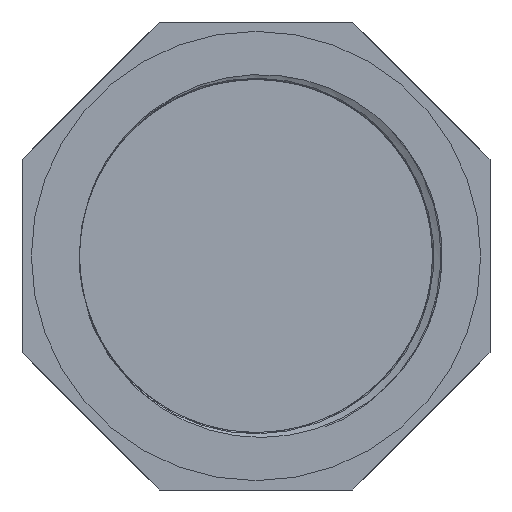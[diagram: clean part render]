
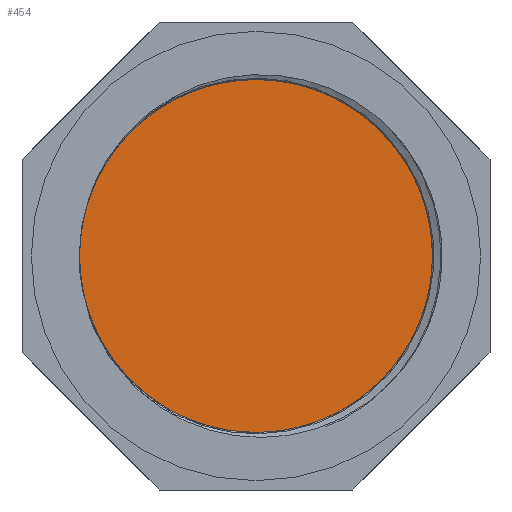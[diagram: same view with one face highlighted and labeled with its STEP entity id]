
A CAD part, front view. The second image highlights one B-rep face of the part: STEP entity #454.
In plain terms, the highlighted planar face has unit normal (0, -1, 0).
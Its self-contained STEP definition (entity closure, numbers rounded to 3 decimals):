
#26=PLANE('',#485);
#123=FACE_OUTER_BOUND('',#154,.T.);
#154=EDGE_LOOP('',(#344));
#184=CIRCLE('',#484,28.328);
#220=VERTEX_POINT('',#4789);
#267=EDGE_CURVE('',#220,#220,#184,.T.);
#344=ORIENTED_EDGE('',*,*,#267,.F.);
#454=ADVANCED_FACE('',(#123),#26,.F.);
#484=AXIS2_PLACEMENT_3D('',#4790,#535,#536);
#485=AXIS2_PLACEMENT_3D('',#4791,#537,#538);
#535=DIRECTION('center_axis',(0.,1.,0.));
#536=DIRECTION('ref_axis',(-1.,0.,0.));
#537=DIRECTION('center_axis',(0.,1.,0.));
#538=DIRECTION('ref_axis',(0.,0.,1.));
#4789=CARTESIAN_POINT('',(28.328,31.,0.));
#4790=CARTESIAN_POINT('Origin',(0.,31.,0.));
#4791=CARTESIAN_POINT('Origin',(0.,31.,0.));
